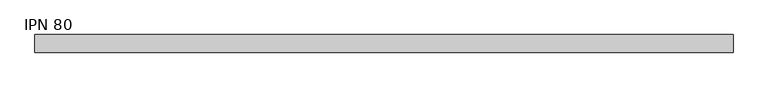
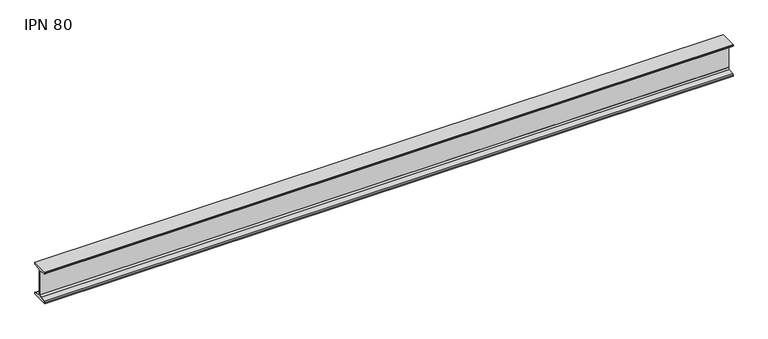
"""IFC4 building model written with IfcOpenShell, lengths in millimetres: beam geometry, IPN - Secciones en I con alas cónicas : IPN 80."""

import ifcopenshell
import ifcopenshell.guid

model = None  # the IFC model being written
_history = None  # IfcOwnerHistory: only IFC2X3 demands one
_inside = {}  # id of a spatial element -> (the spatial element, [elements in it])
_under = {}  # id of a project, library or spatial element -> (it, [spatial elements below it])
_declared = {}  # id of a project -> (the project, [libraries it declares])
_typed = {}  # id of a type object -> (the type object, [elements of that type])
_made_of = {}  # id of a material, layer set ... -> (it, [elements and type objects made of it])


def new_model(schema):
    """Start an empty IFC model of exactly this schema.

    Asked for "IFC4X3", IfcOpenShell would pick the latest addendum, in which some entities
    have other attributes; the version numbers below select the first issue.
    IFC2X3 requires an IfcOwnerHistory on every rooted entity: one is made here for all.
    """
    global model, _history
    if schema == "IFC4X3":
        model = ifcopenshell.file(schema_version=(4, 3, 0, 0))
    else:
        model = ifcopenshell.file(schema=schema)
    _inside.clear()
    _under.clear()
    _declared.clear()
    _typed.clear()
    _made_of.clear()
    _history = None
    if model.schema == "IFC2X3":
        org = make("IfcOrganization", Name="unknown")
        user = make(
            "IfcPersonAndOrganization",
            ThePerson=make("IfcPerson", FamilyName="unknown"),
            TheOrganization=org,
        )
        app = make(
            "IfcApplication",
            ApplicationDeveloper=org,
            Version="unknown",
            ApplicationFullName="unknown",
            ApplicationIdentifier="unknown",
        )
        _history = make(
            "IfcOwnerHistory",
            OwningUser=user,
            OwningApplication=app,
            ChangeAction="ADDED",
            CreationDate=0,
        )
    return model


def make(cls, **values):
    """One entity of the class cls with the attributes given. An attribute that is None is left unset."""
    return model.create_entity(
        cls, **{name: value for name, value in values.items() if value is not None}
    )


def rooted(cls, **values):
    """An entity with a GlobalId (a new one), such as an element, a storey or a relation."""
    return make(cls, GlobalId=ifcopenshell.guid.new(), OwnerHistory=_history, **values)


def si_unit(unit_type, name, prefix=None):
    """IfcSIUnit, for example si_unit("LENGTHUNIT", "METRE", prefix="MILLI")."""
    return make("IfcSIUnit", UnitType=unit_type, Prefix=prefix, Name=name)


def assignment(units):
    """IfcUnitAssignment: the units of a project."""
    return None if units is None else make("IfcUnitAssignment", Units=units)


def point(xyz):
    """IfcCartesianPoint."""
    return None if xyz is None else make("IfcCartesianPoint", Coordinates=xyz)


def direction(xyz):
    """IfcDirection."""
    return None if xyz is None else make("IfcDirection", DirectionRatios=xyz)


def frame(location, z_axis=None, x_axis=None):
    """IfcAxis2Placement3D, a coordinate frame: its origin and axes. An axis left out is left unset."""
    return make(
        "IfcAxis2Placement3D",
        Location=point(location),
        Axis=direction(z_axis),
        RefDirection=direction(x_axis),
    )


def frame_2d(location, x_axis=None):
    """IfcAxis2Placement2D, a coordinate frame in the plane: its origin and x axis."""
    return make(
        "IfcAxis2Placement2D", Location=point(location), RefDirection=direction(x_axis)
    )


def origin():
    """The frame at (0, 0, 0) with its axes left unset."""
    return frame((0.0, 0.0, 0.0))


def place(relative_to, where):
    """IfcLocalPlacement: puts the frame where relative to a parent placement (None: the world)."""
    return make(
        "IfcLocalPlacement", PlacementRelTo=relative_to, RelativePlacement=where
    )


def context(
    kind, dimensions, precision=None, world=None, true_north=None, identifier=None
):
    """IfcGeometricRepresentationContext, for example the 3D "Model" context."""
    return make(
        "IfcGeometricRepresentationContext",
        ContextIdentifier=identifier,
        ContextType=kind,
        CoordinateSpaceDimension=dimensions,
        Precision=precision,
        WorldCoordinateSystem=world,
        TrueNorth=true_north,
    )


def project(units=None, contexts=None):
    """IfcProject with its units and contexts."""
    return rooted(
        "IfcProject",
        Name="project",
        RepresentationContexts=contexts,
        UnitsInContext=assignment(units),
    )


def spatial(cls, under=None, at=None, **own):
    """A site, building, storey or space (cls), placed at a placement, below another one or the project."""
    s = rooted(cls, ObjectPlacement=at, **own)
    if under is not None:
        _under.setdefault(under.id(), (under, []))[1].append(s)
    return s


def polyline(points):
    """IfcPolyline through the points."""
    return make("IfcPolyline", Points=[point(p) for p in points])


def circle_curve(where, radius):
    """IfcCircle in the frame where."""
    return make("IfcCircle", Position=where, Radius=radius)


def trimmed(basis, trim1, trim2, sense, master):
    """IfcTrimmedCurve: the piece of a basis curve between two trims."""
    return make(
        "IfcTrimmedCurve",
        BasisCurve=basis,
        Trim1=trim1,
        Trim2=trim2,
        SenseAgreement=sense,
        MasterRepresentation=master,
    )


def segment(curve, same_sense, transition):
    """IfcCompositeCurveSegment."""
    return make(
        "IfcCompositeCurveSegment",
        Transition=transition,
        SameSense=same_sense,
        ParentCurve=curve,
    )


def composite_curve(segments, self_intersect=None):
    """IfcCompositeCurve: segments joined end to end."""
    return make("IfcCompositeCurve", Segments=segments, SelfIntersect=self_intersect)


def outline(outer, holes=None, kind="AREA"):
    """IfcArbitraryClosedProfileDef: a profile drawn as a closed curve; with holes, ...WithVoids."""
    if holes is None:
        return make("IfcArbitraryClosedProfileDef", ProfileType=kind, OuterCurve=outer)
    return make(
        "IfcArbitraryProfileDefWithVoids",
        ProfileType=kind,
        OuterCurve=outer,
        InnerCurves=holes,
    )


def extrude(swept, where, along, depth):
    """IfcExtrudedAreaSolid: the profile swept, set in the frame where, extruded along a direction by depth."""
    return make(
        "IfcExtrudedAreaSolid",
        SweptArea=swept,
        Position=where,
        ExtrudedDirection=direction(along),
        Depth=depth,
    )


def shape(context_of_items, identifier, shape_type, items):
    """IfcShapeRepresentation: the items that make up one representation, for example the "Body"."""
    return make(
        "IfcShapeRepresentation",
        ContextOfItems=context_of_items,
        RepresentationIdentifier=identifier,
        RepresentationType=shape_type,
        Items=items,
    )


def source(mapping_origin, context_of_items, identifier, shape_type, items):
    """IfcRepresentationMap: a shape defined once, which mapped items show again and again."""
    return make(
        "IfcRepresentationMap",
        MappingOrigin=mapping_origin,
        MappedRepresentation=shape(context_of_items, identifier, shape_type, items),
    )


def transform(
    local_origin,
    x_axis=None,
    y_axis=None,
    z_axis=None,
    scale=None,
    scale2=None,
    scale3=None,
    uniform=True,
):
    """IfcCartesianTransformationOperator3D, or its non-uniform kind. x_axis, y_axis, z_axis: its Axis1, 2, 3."""
    if uniform:
        return make(
            "IfcCartesianTransformationOperator3D",
            Axis1=direction(x_axis),
            Axis2=direction(y_axis),
            LocalOrigin=point(local_origin),
            Scale=scale,
            Axis3=direction(z_axis),
        )
    return make(
        "IfcCartesianTransformationOperator3DnonUniform",
        Axis1=direction(x_axis),
        Axis2=direction(y_axis),
        LocalOrigin=point(local_origin),
        Scale=scale,
        Axis3=direction(z_axis),
        Scale2=scale2,
        Scale3=scale3,
    )


def mapped(mapping_source, mapping_target):
    """IfcMappedItem: shows the shape of a source again, moved by a transform."""
    return make(
        "IfcMappedItem", MappingSource=mapping_source, MappingTarget=mapping_target
    )


def made_of(thing, what):
    """Note that an element or type object is made of a material, layer set ...; save() writes the relation."""
    if what is not None:
        _made_of.setdefault(what.id(), (what, []))[1].append(thing)
    return thing


def element(
    cls,
    number,
    at=None,
    inside=None,
    cuts=None,
    type_object=None,
    material=None,
    context=None,
    identifier="Body",
    shape_type=None,
    held_by="IfcProductDefinitionShape",
    body=None,
    shapes=None,
    **own,
):
    """One element of the class cls, such as IfcWall. Its Tag is "e" and its number.

    at: its placement. inside: the storey or other place that contains it. cuts: it is an
    opening in that element (IfcRelVoidsElement). A single representation is given by context,
    identifier, shape_type and body (its items); several are given by shapes. held_by: the class
    of the entity that holds the representations. save() writes the other relations.
    """
    e = rooted(cls, Tag="e%d" % number, ObjectPlacement=at, **own)
    if body is not None:
        shapes = [shape(context, identifier, shape_type, body)]
    if shapes is not None:
        e.Representation = make(held_by, Representations=shapes)
    if inside is not None:
        _inside.setdefault(inside.id(), (inside, []))[1].append(e)
    if cuts is not None:
        rooted(
            "IfcRelVoidsElement", RelatingBuildingElement=cuts, RelatedOpeningElement=e
        )
    if type_object is not None:
        _typed.setdefault(type_object.id(), (type_object, []))[1].append(e)
    return made_of(e, material)


def aggregate(whole, parts):
    """IfcRelAggregates: a whole, such as a stair, and the parts it consists of."""
    return rooted("IfcRelAggregates", RelatingObject=whole, RelatedObjects=parts)


def save(model, path):
    """Write the relations noted so far, then the file.

    IfcRelAggregates (storeys below a building ...), IfcRelContainedInSpatialStructure (elements
    in a storey), IfcRelDefinesByType, IfcRelAssociatesMaterial and IfcRelDeclares: one each for
    every whole, place, type object, material and project.
    """
    for whole, parts in _under.values():
        aggregate(whole, parts)
    for where, things in _inside.values():
        rooted(
            "IfcRelContainedInSpatialStructure",
            RelatedElements=things,
            RelatingStructure=where,
        )
    for kind, things in _typed.values():
        rooted("IfcRelDefinesByType", RelatedObjects=things, RelatingType=kind)
    for what, things in _made_of.values():
        rooted("IfcRelAssociatesMaterial", RelatedObjects=things, RelatingMaterial=what)
    for by, libraries in _declared.values():
        rooted("IfcRelDeclares", RelatingContext=by, RelatedDefinitions=libraries)
    model.write(path)


def ipn_80_bbd9ff88(model_context):
    return source(origin(), model_context, "Body", "SweptSolid", [
        extrude(outline(composite_curve([segment(polyline([(21.0, 40.0), (21.0, 37.5704306)]), True, "CONTINUOUS"), segment(trimmed(circle_curve(frame_2d((18.7, 37.5704306)), 2.3), [point((21.0, 37.5704306))], [point((19.01889, 35.2926446))], False, "CARTESIAN"), True, "CONTINUOUS"), segment(polyline([(19.01889, 35.2926446), (5.3092734, 33.3732983)]), True, "CONTINUOUS"), segment(trimmed(circle_curve(frame_2d((5.85, 29.5109655)), 3.9), [point((5.3092734, 33.3732983))], [point((1.95, 29.5109655))], True, "CARTESIAN"), True, "CONTINUOUS"), segment(polyline([(1.95, 29.5109655), (1.95, -29.5109655)]), True, "CONTINUOUS"), segment(trimmed(circle_curve(frame_2d((5.85, -29.5109655)), 3.9), [point((1.95, -29.5109655))], [point((5.3092734, -33.3732983))], True, "CARTESIAN"), True, "CONTINUOUS"), segment(polyline([(5.3092734, -33.3732983), (19.01889, -35.2926446)]), True, "CONTINUOUS"), segment(trimmed(circle_curve(frame_2d((18.7, -37.5704306)), 2.3), [point((19.01889, -35.2926446))], [point((21.0, -37.5704306))], False, "CARTESIAN"), True, "CONTINUOUS"), segment(polyline([(21.0, -37.5704306), (21.0, -40.0), (-21.0, -40.0), (-21.0, -37.5704306)]), True, "CONTINUOUS"), segment(trimmed(circle_curve(frame_2d((-18.7, -37.5704306)), 2.3), [point((-21.0, -37.5704306))], [point((-19.01889, -35.2926446))], False, "CARTESIAN"), True, "CONTINUOUS"), segment(polyline([(-19.01889, -35.2926446), (-5.3092734, -33.3732983)]), True, "CONTINUOUS"), segment(trimmed(circle_curve(frame_2d((-5.85, -29.5109655)), 3.9), [point((-5.3092734, -33.3732983))], [point((-1.95, -29.5109655))], True, "CARTESIAN"), True, "CONTINUOUS"), segment(polyline([(-1.95, -29.5109655), (-1.95, 29.5109655)]), True, "CONTINUOUS"), segment(trimmed(circle_curve(frame_2d((-5.85, 29.5109655)), 3.9), [point((-1.95, 29.5109655))], [point((-5.3092734, 33.3732983))], True, "CARTESIAN"), True, "CONTINUOUS"), segment(polyline([(-5.3092734, 33.3732983), (-19.01889, 35.2926446)]), True, "CONTINUOUS"), segment(trimmed(circle_curve(frame_2d((-18.7, 37.5704306)), 2.3), [point((-19.01889, 35.2926446))], [point((-21.0, 37.5704306))], False, "CARTESIAN"), True, "CONTINUOUS"), segment(polyline([(-21.0, 37.5704306), (-21.0, 40.0), (21.0, 40.0)]), True, "CONTINUOUS")], self_intersect=False)), frame((-830.0, 0.0, 0.0), z_axis=(1.0, 0.0, 0.0), x_axis=(0.0, 1.0, 0.0)), (0.0, 0.0, 1.0), 1660.0),
    ])


if __name__ == "__main__":
    model = new_model("IFC4")
    model_context = context("Model", 3, world=origin())
    ifc_project = project(units=[si_unit("LENGTHUNIT", "METRE", prefix="MILLI")], contexts=[model_context])
    site = spatial("IfcSite", under=ifc_project)
    building = spatial("IfcBuilding", under=site)
    placement = place(None, origin())
    ipn_80_shape = ipn_80_bbd9ff88(model_context)
    element("IfcBeam", 1, ObjectType="IPN - Secciones en I con alas cónicas : IPN 80", at=placement, inside=building, context=model_context, shape_type="MappedRepresentation", body=[
        mapped(ipn_80_shape, transform((0.0, 0.0, 0.0), x_axis=(1.0, 0.0, 0.0), y_axis=(0.0, 1.0, 0.0), z_axis=(0.0, 0.0, 1.0))),
    ])
    save(model, "model.ifc")
